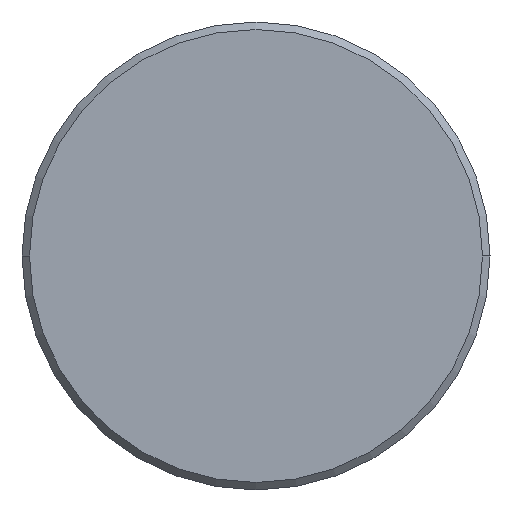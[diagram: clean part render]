
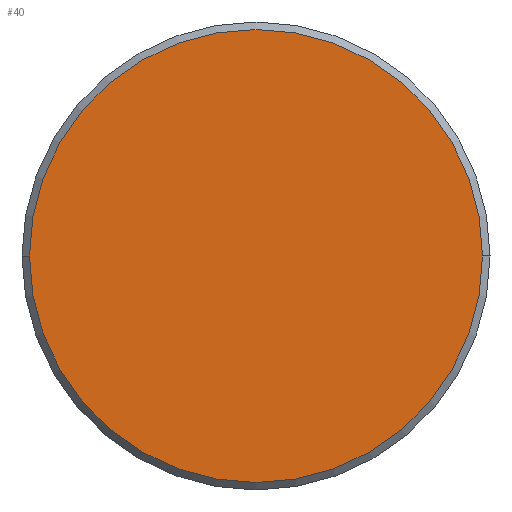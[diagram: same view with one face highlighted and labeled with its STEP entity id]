
A CAD part, left-side view. The second image highlights one B-rep face of the part: STEP entity #40.
In plain terms, the highlighted planar face has unit normal (-1, 0, 0).
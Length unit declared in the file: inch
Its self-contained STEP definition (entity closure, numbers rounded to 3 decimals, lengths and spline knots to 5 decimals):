
#2 = DIRECTION ( 'NONE',  ( -1., 0., 0. ) ) ;
#5 = VERTEX_POINT ( 'NONE', #198 ) ;
#23 = CARTESIAN_POINT ( 'NONE',  ( 0., 0., 0. ) ) ;
#30 = CARTESIAN_POINT ( 'NONE',  ( 0., -0.121, 0. ) ) ;
#31 = EDGE_CURVE ( 'NONE', #5, #379, #128, .T. ) ;
#37 = FACE_OUTER_BOUND ( 'NONE', #335, .T. ) ;
#40 = ADVANCED_FACE ( 'NONE', ( #37 ), #170, .T. ) ;
#52 = DIRECTION ( 'NONE',  ( -1., 0., 0. ) ) ;
#57 = CARTESIAN_POINT ( 'NONE',  ( 0., 0., 0. ) ) ;
#66 = EDGE_CURVE ( 'NONE', #379, #5, #197, .T. ) ;
#71 = ORIENTED_EDGE ( 'NONE', *, *, #66, .T. ) ;
#81 = DIRECTION ( 'NONE',  ( 0., -1., 0. ) ) ;
#101 = AXIS2_PLACEMENT_3D ( 'NONE', #135, #52, #81 ) ;
#128 = CIRCLE ( 'NONE', #101, 0.121 ) ;
#135 = CARTESIAN_POINT ( 'NONE',  ( 0., 0., 0. ) ) ;
#138 = DIRECTION ( 'NONE',  ( 0., -1., 0. ) ) ;
#170 = PLANE ( 'NONE',  #185 ) ;
#185 = AXIS2_PLACEMENT_3D ( 'NONE', #23, #319, #138 ) ;
#197 = CIRCLE ( 'NONE', #286, 0.121 ) ;
#198 = CARTESIAN_POINT ( 'NONE',  ( 0., 0.121, 0. ) ) ;
#200 = DIRECTION ( 'NONE',  ( 0., -1., 0. ) ) ;
#238 = ORIENTED_EDGE ( 'NONE', *, *, #31, .T. ) ;
#286 = AXIS2_PLACEMENT_3D ( 'NONE', #57, #2, #200 ) ;
#319 = DIRECTION ( 'NONE',  ( -1., 0., 0. ) ) ;
#335 = EDGE_LOOP ( 'NONE', ( #238, #71 ) ) ;
#379 = VERTEX_POINT ( 'NONE', #30 ) ;
